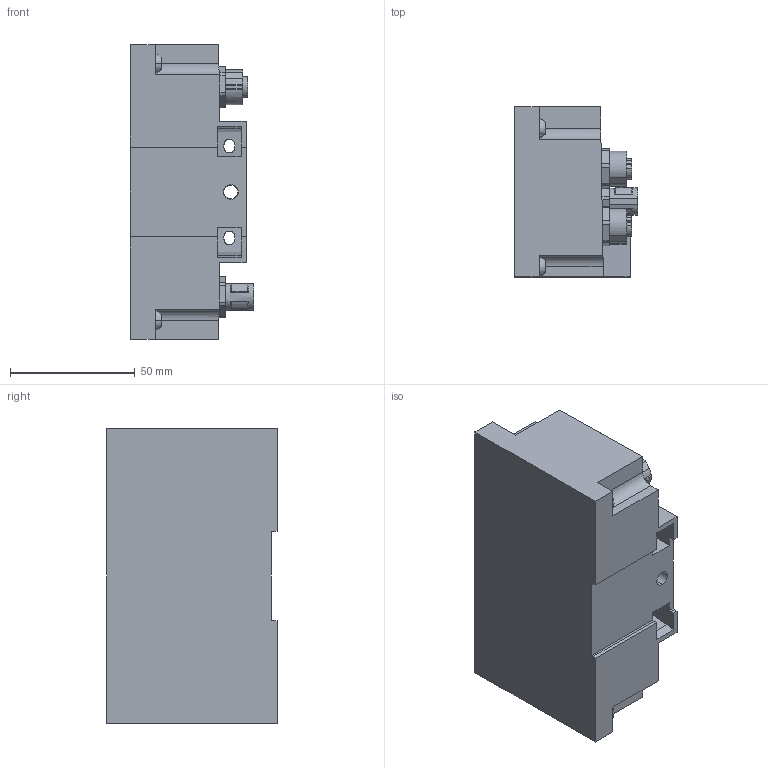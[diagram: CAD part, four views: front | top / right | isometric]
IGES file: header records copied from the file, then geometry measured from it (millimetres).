
Start section: --------------------------------------------------- Robert Bosch GmbH Postfach 300220 70442 Stuttgart Model-Name:      "P580AEPN1010A00" Drawing-Name:    "&dwg_name" Format:          DIN "&format" Alle Rechte bei ROBERT BOSCH GmbH, auch fuer den Fall von Schutzrechtsanmeldungen. Jede Verfuegungs- befugnis, wie Kopier- und Weitergabe, bei uns. THIS DRAWING IS THE EXCLUSIVE PROPERTY OF ROBERT BOSCH 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
Global section: file name: p580aepn1010a00.igs; native system: Creo Parametric by PTC Inc.; preprocessor: 2020044; author: PDH2HC; organization: Unknown; date: 20210916.192151; units: millimetre
Bounding box: 49.38 x 68.1 x 118 mm (x, y, z)
Surface area: 35892.9 mm2 (no closed solid volume)
Topology: 0 solids, 0 shells, 280 faces, 1482 edges, 1474 vertices
Faces by surface type: bspline 174, revolution 105, extrusion 1
